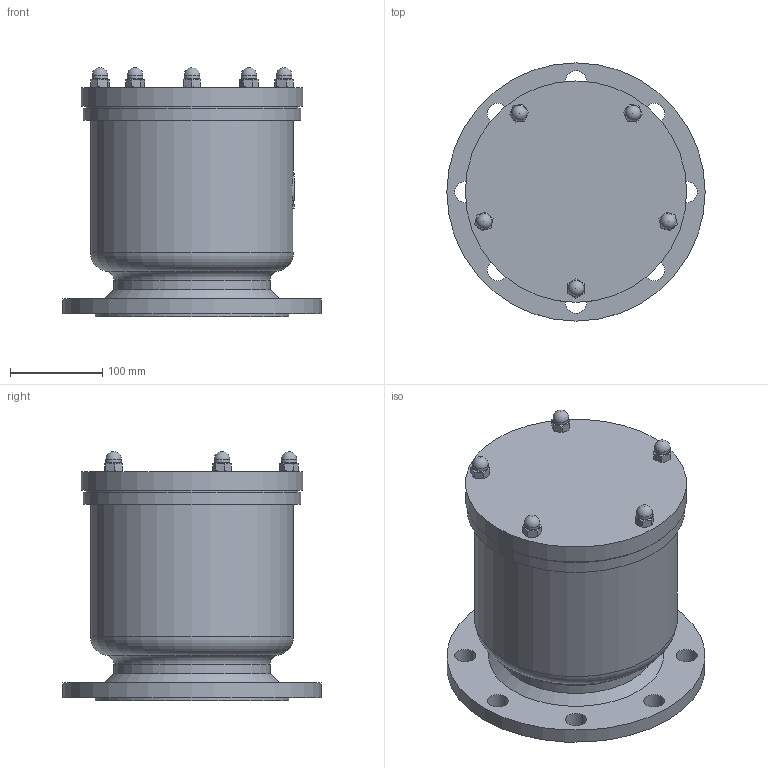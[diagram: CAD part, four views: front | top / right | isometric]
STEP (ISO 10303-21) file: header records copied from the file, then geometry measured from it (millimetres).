
FILE_DESCRIPTION(('STEP AP203'), '1');
FILE_NAME('A10F.Z DN150', '', ('UNSPECIFIED'), ('UNSPECIFIED'), 'ASCON STEP Converter 1.6', 'ASCON Math Kernel', '');
FILE_SCHEMA(('CONFIG_CONTROL_DESIGN'));
Length unit declared in the file: millimetre
Products named in the file (3): A10F.Z DN150
Assembly tree (5 placements, depth 2):
  A10F.Z DN150
    (unnamed)  x3
    (unnamed)  x2
Bounding box: 280 x 280 x 270 mm (x, y, z)
Volume: 5613278.6 mm3; surface area: 449651.9 mm2
Topology: 3 solids, 6 shells, 119 faces, 265 edges, 168 vertices
Faces by surface type: plane 58, cylinder 33, cone 21, sphere 5, torus 2
Full cylindrical faces by diameter (mm): 10.106 x5, 17 x5, 23 x8, 150 x1, 170 x1, 210 x1, 220 x1, 230 x1, 236 x1, 240 x1, 280 x1
Entity records: 6043 total; most frequent: CARTESIAN_POINT 3067, DIRECTION 411, ORIENTED_EDGE 352, AXIS2_PLACEMENT_3D 182, EDGE_LOOP 176, EDGE_CURVE 176, VERTEX_POINT 138, ADVANCED_FACE 104
